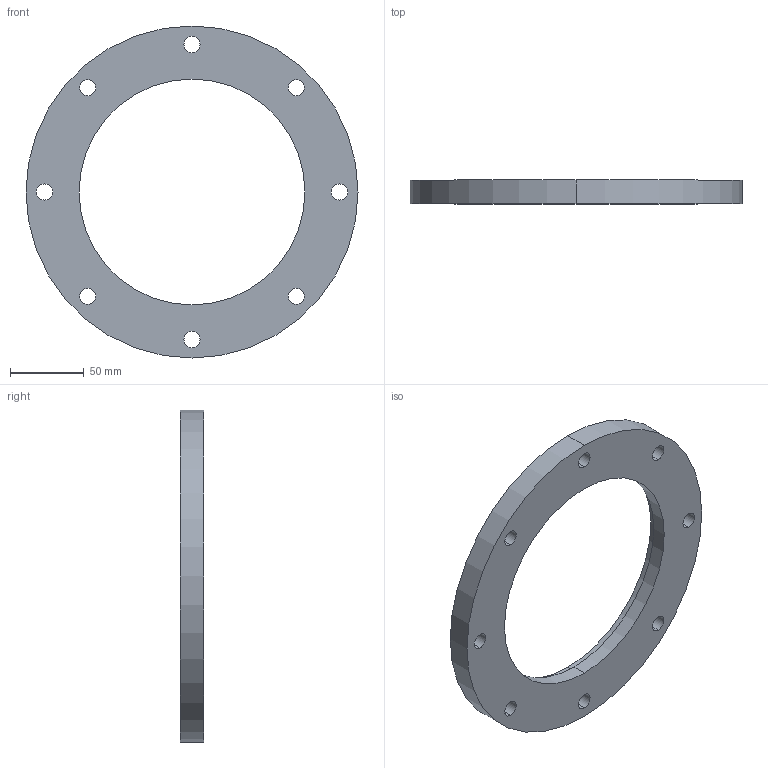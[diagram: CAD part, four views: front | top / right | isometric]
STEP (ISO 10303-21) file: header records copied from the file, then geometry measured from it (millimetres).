
FILE_DESCRIPTION (( 'STEP AP214' ), '1' );
FILE_NAME ('W5KL160.STEP', '2019-04-01T09:59:12', ( '' ), ( '' ), 'SwSTEP 2.0', 'SolidWorks 2018', '' );
FILE_SCHEMA (( 'AUTOMOTIVE_DESIGN' ));
Length unit declared in the file: millimetre
Products named in the file (1): W5KL160
Bounding box: 225 x 16 x 225 mm (x, y, z)
Volume: 319879.3 mm3; surface area: 64733.4 mm2
Topology: 1 solids, 1 shells, 25 faces, 66 edges, 44 vertices
Faces by surface type: cylinder 22, plane 3
Entity records: 874 total; most frequent: DIRECTION 162, CARTESIAN_POINT 136, ORIENTED_EDGE 132, AXIS2_PLACEMENT_3D 70, EDGE_CURVE 66, VERTEX_POINT 44, EDGE_LOOP 44, CIRCLE 44
